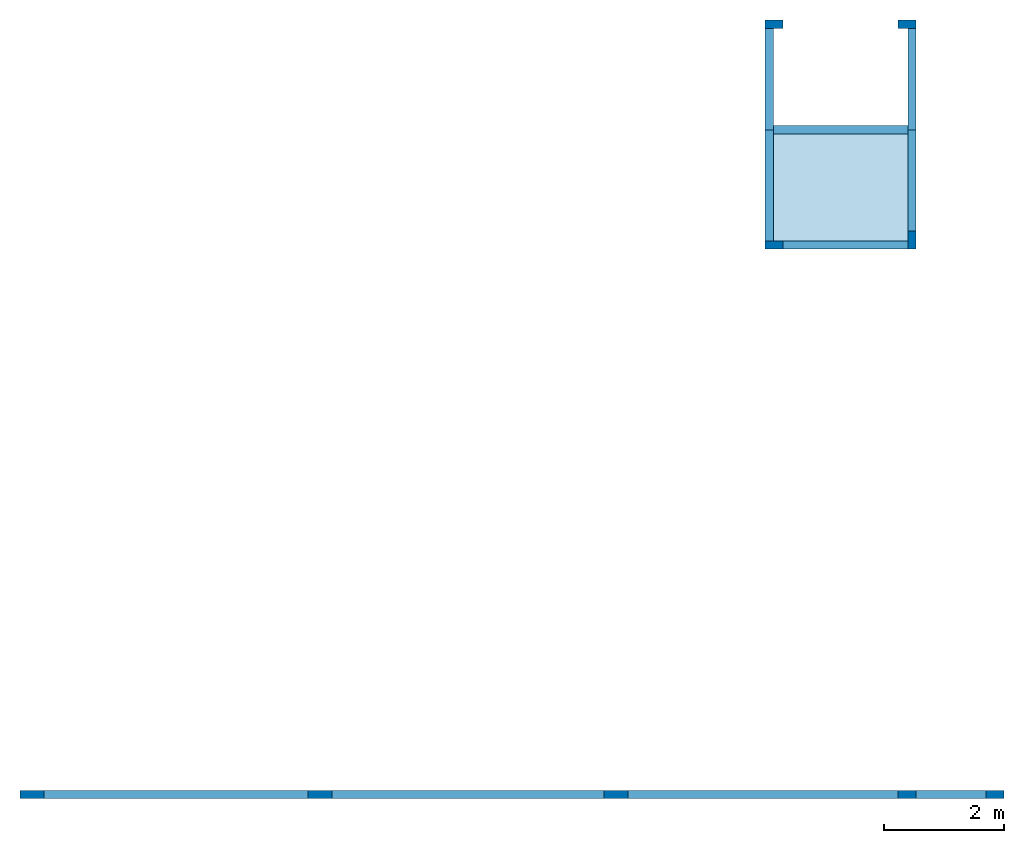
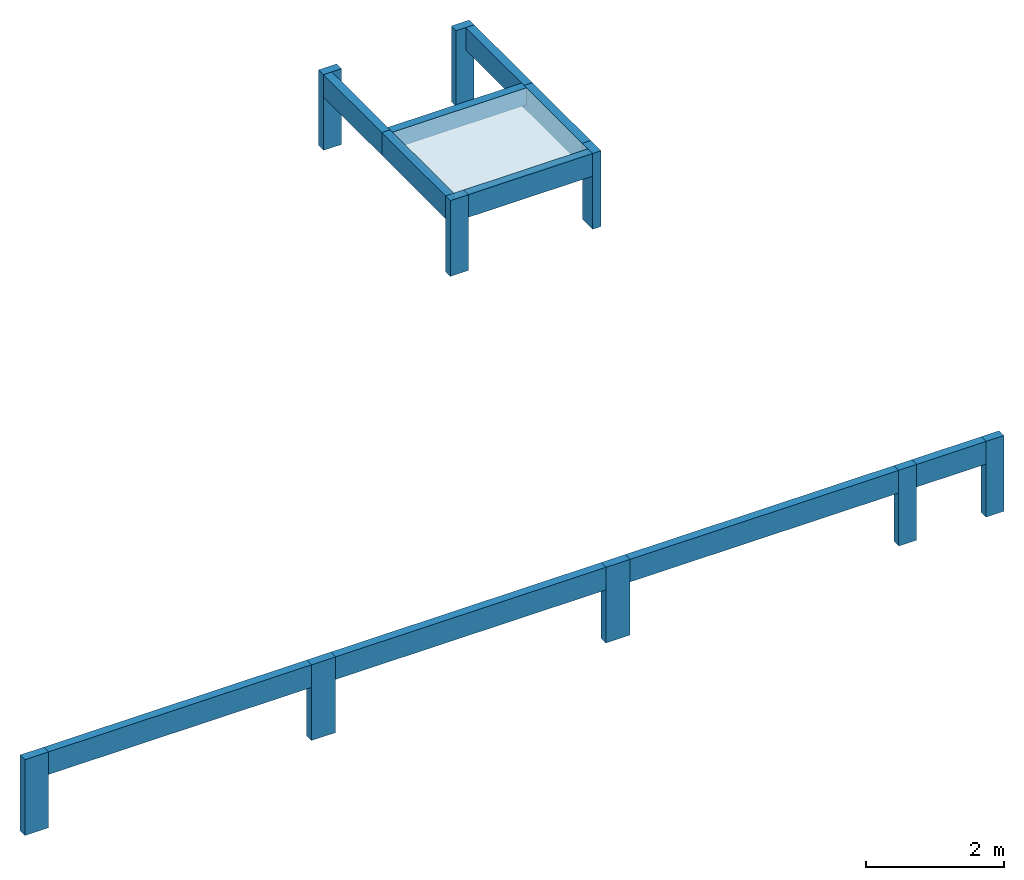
# One storey: 10 beams, 9 columns, 1 slab.
"""IFC4 building model written with IfcOpenShell, lengths in centimetres."""

from ifc_helpers import new_model, si_unit, derived_unit, frame, origin_with_axes, origin_2d_with_axis, place, context, project, spatial, polyline, rectangle, outline, extrude, material, element, save


model = new_model("IFC4")

# Units and contexts
model_context = context("Model", 3, precision=1e-05, world=origin_with_axes(), identifier="Body")
ifc_project = project(units=[si_unit("LENGTHUNIT", "METRE", prefix="CENTI"), si_unit("VOLUMEUNIT", "CUBIC_METRE"), si_unit("AREAUNIT", "SQUARE_METRE"), si_unit("POWERUNIT", "WATT"), si_unit("LUMINOUSFLUXUNIT", "LUMEN"), si_unit("ELECTRICCURRENTUNIT", "AMPERE"), si_unit("PRESSUREUNIT", "PASCAL", prefix="KILO"), si_unit("MASSUNIT", "GRAM", prefix="KILO"), si_unit("PLANEANGLEUNIT", "RADIAN"), derived_unit("VOLUMETRICFLOWRATEUNIT", [(si_unit("LENGTHUNIT", "METRE"), 3), (si_unit("TIMEUNIT", "SECOND"), -1)])], contexts=[model_context])

# Site, building, storey
site_placement = place(None, origin_with_axes())
site = spatial("IfcSite", under=ifc_project, at=site_placement)
building_placement = place(site_placement, frame((0.0, 0.0, 24.0)))
building = spatial("IfcBuilding", under=site, at=building_placement)
storey_placement = place(building_placement, frame((0.0, 0.0, 446.0), z_axis=(0.0, 0.0, 1.0), x_axis=(1.0, 0.0, 0.0)))
storey = spatial("IfcBuildingStorey", under=building, at=storey_placement, Name="PLATIBANDA", CompositionType="ELEMENT", Elevation=470.0)

# Columns
ifc_material = material(Name="Concreto")
for number, where, z_axis, x_axis, name in (
    (1, (39.5, 281.0, 0.0), (0.0, 0.0, 1.0), (1.0, 0.0, 0.0), "P17"),
    (2, (519.06, 281.0, 0.0), (0.0, 0.0, 1.0), (1.0, 0.0, 0.0), "P18"),
    (3, (1011.63, 281.0, 0.0), (0.0, 0.0, 1.0), (1.0, 0.0, 0.0), "P19"),
):
    element("IfcColumn", number, at=place(storey_placement, frame(where, z_axis=z_axis, x_axis=x_axis)), inside=storey, material=ifc_material, Name=name, context=model_context, shape_type="SolidModel", body=[
        extrude(rectangle(XDim=14.0, YDim=40.0, at=origin_2d_with_axis()), frame((0.0, 0.0, 0.0), z_axis=(0.0, 0.0, 1.0), x_axis=(0.0, -1.0, 0.0)), (0.0, 0.0, -1.0), 134.0),
    ])
for number, where, z_axis, x_axis, name in (
    (4, (1496.18, 281.0, 0.0), (0.0, 0.0, 1.0), (1.0, 0.0, 0.0), "P20"),
    (5, (1642.23, 281.0, 0.0), (0.0, 0.0, 1.0), (1.0, 0.0, 0.0), "P21"),
    (6, (1274.22, 1563.0, 0.0), (0.0, 0.0, 1.0), (1.0, 0.0, 0.0), "P3"),
    (7, (1496.18, 1563.0, 0.0), (0.0, 0.0, 1.0), (1.0, 0.0, 0.0), "P4"),
    (8, (1274.22, 1195.52, 0.0), (0.0, 0.0, 1.0), (1.0, 0.0, 0.0), "P8"),
):
    element("IfcColumn", number, at=place(storey_placement, frame(where, z_axis=z_axis, x_axis=x_axis)), inside=storey, material=ifc_material, Name=name, context=model_context, shape_type="SolidModel", body=[
        extrude(rectangle(XDim=14.0, YDim=30.0, at=origin_2d_with_axis()), frame((0.0, 0.0, 0.0), z_axis=(0.0, 0.0, 1.0), x_axis=(0.0, -1.0, 0.0)), (0.0, 0.0, -1.0), 134.0),
    ])
column_placement = place(storey_placement, frame((1504.18, 1203.52, 0.0), z_axis=(0.0, 0.0, 1.0), x_axis=(1.0, 0.0, 0.0)))
element("IfcColumn", 9, at=column_placement, inside=storey, material=ifc_material, Name="P9", context=model_context, shape_type="SolidModel", body=[
    extrude(rectangle(XDim=14.0, YDim=30.0, at=origin_2d_with_axis()), origin_with_axes(), (0.0, 0.0, -1.0), 134.0),
])

# Beams
beam_1_placement = place(storey_placement, frame((1385.2, 1387.26, 0.0), z_axis=(0.0, 0.0, 1.0), x_axis=(1.0, 0.0, 0.0)))
element("IfcBeam", 10, at=beam_1_placement, inside=storey, material=ifc_material, Name="V1", context=model_context, shape_type="SolidModel", body=[
    extrude(rectangle(XDim=14.0, YDim=30.0, at=origin_2d_with_axis()), frame((-118.98, 0.0, -15.0), z_axis=(1.0, 0.0, 0.0), x_axis=(0.0, 1.0, 0.0)), (0.0, 0.0, 1.0), 237.96),
])
beam_2_placement = place(storey_placement, frame((1393.2, 1195.52, 0.0), z_axis=(0.0, 0.0, 1.0), x_axis=(1.0, 0.0, 0.0)))
element("IfcBeam", 11, at=beam_2_placement, inside=storey, material=ifc_material, Name="V2", context=model_context, shape_type="SolidModel", body=[
    extrude(rectangle(XDim=14.0, YDim=40.0, at=origin_2d_with_axis()), frame((-103.98, 0.0, -20.0), z_axis=(1.0, 0.0, 0.0), x_axis=(0.0, 1.0, 0.0)), (0.0, 0.0, 1.0), 207.96),
])
beam_3_placement = place(storey_placement, frame((279.28, 281.0, 0.0), z_axis=(0.0, 0.0, 1.0), x_axis=(1.0, 0.0, 0.0)))
element("IfcBeam", 12, at=beam_3_placement, inside=storey, material=ifc_material, Name="V3", context=model_context, shape_type="SolidModel", body=[
    extrude(rectangle(XDim=14.0, YDim=40.0, at=origin_2d_with_axis()), frame((-219.78, 0.0, -20.0), z_axis=(1.0, 0.0, 0.0), x_axis=(0.0, 1.0, 0.0)), (0.0, 0.0, 1.0), 439.56),
])
beam_4_placement = place(storey_placement, frame((765.345, 281.0, 0.0), z_axis=(0.0, 0.0, 1.0), x_axis=(1.0, 0.0, 0.0)))
element("IfcBeam", 13, at=beam_4_placement, inside=storey, material=ifc_material, Name="V3", context=model_context, shape_type="SolidModel", body=[
    extrude(rectangle(XDim=14.0, YDim=40.0, at=origin_2d_with_axis()), frame((-226.285, 0.0, -20.0), z_axis=(1.0, 0.0, 0.0), x_axis=(0.0, 1.0, 0.0)), (0.0, 0.0, 1.0), 452.57),
])
beam_5_placement = place(storey_placement, frame((1256.405, 281.0, 0.0), z_axis=(0.0, 0.0, 1.0), x_axis=(1.0, 0.0, 0.0)))
element("IfcBeam", 14, at=beam_5_placement, inside=storey, material=ifc_material, Name="V3", context=model_context, shape_type="SolidModel", body=[
    extrude(rectangle(XDim=14.0, YDim=40.0, at=origin_2d_with_axis()), frame((-224.775, 0.0, -20.0), z_axis=(1.0, 0.0, 0.0), x_axis=(0.0, 1.0, 0.0)), (0.0, 0.0, 1.0), 449.55),
])
beam_6_placement = place(storey_placement, frame((1569.205, 281.0, 0.0), z_axis=(0.0, 0.0, 1.0), x_axis=(1.0, 0.0, 0.0)))
element("IfcBeam", 15, at=beam_6_placement, inside=storey, material=ifc_material, Name="V3", context=model_context, shape_type="SolidModel", body=[
    extrude(rectangle(XDim=14.0, YDim=40.0, at=origin_2d_with_axis()), frame((-58.025, 0.0, -20.0), z_axis=(1.0, 0.0, 0.0), x_axis=(0.0, 1.0, 0.0)), (0.0, 0.0, 1.0), 116.05),
])
beam_7_placement = place(storey_placement, frame((1266.22, 1294.89, 0.0), z_axis=(0.0, 0.0, 1.0), x_axis=(1.0, 0.0, 0.0)))
element("IfcBeam", 16, at=beam_7_placement, inside=storey, material=ifc_material, Name="V4", context=model_context, shape_type="SolidModel", body=[
    extrude(rectangle(XDim=14.0, YDim=40.0, at=origin_2d_with_axis()), frame((0.0, -92.37, -20.0), z_axis=(0.0, 1.0, 0.0), x_axis=(1.0, 0.0, 0.0)), (0.0, 0.0, 1.0), 184.74),
])
for number, where, z_axis, x_axis, name in (
    (17, (1266.22, 1471.63, 0.0), (0.0, 0.0, 1.0), (1.0, 0.0, 0.0), "V4"),
    (18, (1504.18, 1302.89, 0.0), (0.0, 0.0, 1.0), (1.0, 0.0, 0.0), "V5"),
    (19, (1504.18, 1471.63, 0.0), (0.0, 0.0, 1.0), (1.0, 0.0, 0.0), "V5"),
):
    element("IfcBeam", number, at=place(storey_placement, frame(where, z_axis=z_axis, x_axis=x_axis)), inside=storey, material=ifc_material, Name=name, context=model_context, shape_type="SolidModel", body=[
        extrude(rectangle(XDim=14.0, YDim=40.0, at=origin_2d_with_axis()), frame((0.0, -84.37, -20.0), z_axis=(0.0, 1.0, 0.0), x_axis=(1.0, 0.0, 0.0)), (0.0, 0.0, 1.0), 168.74),
    ])

# Slab
slab_placement = place(storey_placement, frame((1385.2, 1291.3905, 0.0), z_axis=(0.0, 0.0, 1.0), x_axis=(1.0, 0.0, 0.0)))
element("IfcSlab", 20, at=slab_placement, inside=storey, material=ifc_material, Name="L1", PredefinedType="FLOOR", context=model_context, shape_type="SolidModel", body=[
    extrude(outline(polyline([(111.979, -88.869), (111.98, 88.87), (-111.98, 88.87), (-111.979, -88.869), (111.979, -88.869), (111.979, -88.869)])), frame((0.0, -0.0005, -10.0), z_axis=(0.0, 0.0, 1.0), x_axis=(1.0, 0.0, 0.0)), (0.0, 0.0, 1.0), 10.0),
])

save(model, "model.ifc")
